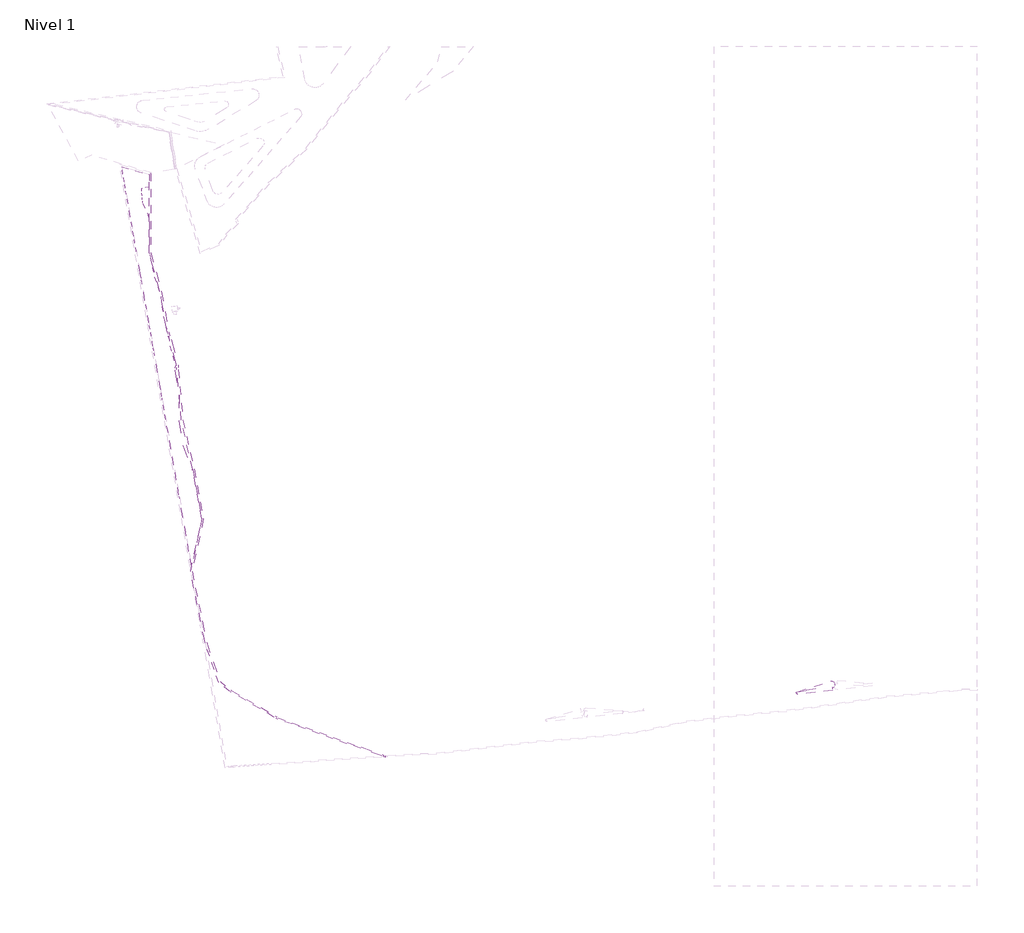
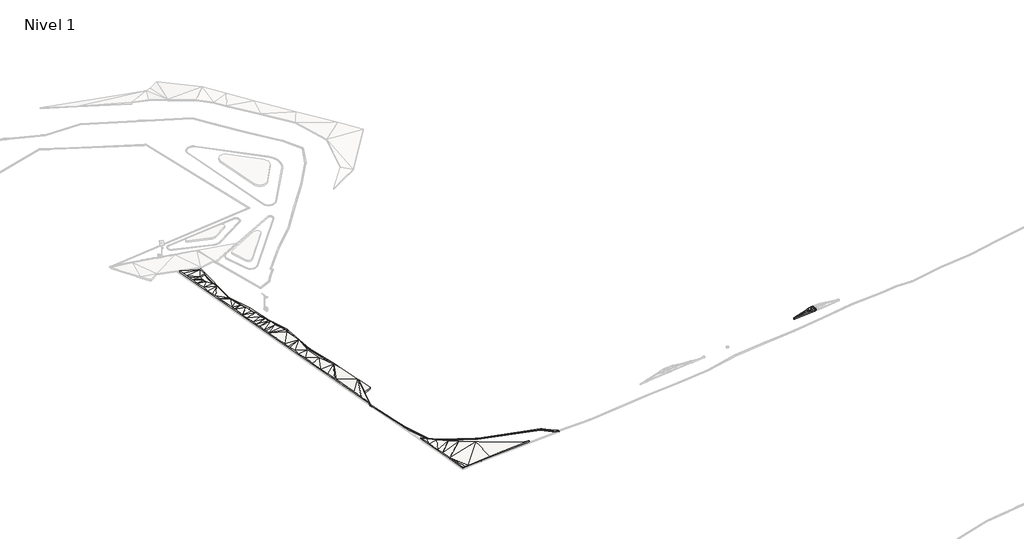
# One storey, part 8 of 45: 3 slabs.
"""IFC4 building model written with IfcOpenShell, lengths in millimetres."""

from ifc_helpers import new_model, si_unit, frame, origin, place, context, project, spatial, polyline, circle_curve, faceted_brep, element, save
from ifc_brep_helpers import plane_surface, cylinder_surface, revolved_surface, spline_surface, advanced_brep

model = new_model("IFC4")

# Units and contexts
model_context = context("Model", 3, world=origin())
ifc_project = project(units=[si_unit("LENGTHUNIT", "METRE", prefix="MILLI")], contexts=[model_context])

# Site, building, storey
site = spatial("IfcSite", under=ifc_project)
building = spatial("IfcBuilding", under=site)
storey = spatial("IfcBuildingStorey", under=building, Name="Nivel 1", Elevation=0.0)

# Slabs
placement = place(None, origin())
element("IfcSlab", 1, ObjectType="Tierra de Chacra (50cm)", at=placement, inside=storey, context=model_context, shape_type="Brep", body=[
    faceted_brep([(-226724.4384274, -477545.333316, 3100.0), (-226724.4384274, -477545.333316, 3600.0), (-239798.9297221, -478400.333791, 3600.0), (-246922.7544411, -478866.193103, 3408.7331529), (-247786.9217593, -478922.7049359, 3375.6789462), (-248651.0890774, -478979.2167688, 3312.6247395), (-248651.0890774, -478979.2167688, 2812.6247395), (-247786.9217593, -478922.7049359, 2875.6789462), (-246922.7544411, -478866.193103, 2908.7331529), (-239798.9297221, -478400.333791, 3100.0), (-249612.5591669, -473485.1887766, 3500.0), (-249762.7322816, -472627.0702505, 3500.0), (-250134.3990086, -470503.293937, 3500.0), (-250506.0657357, -468379.5176236, 3500.0), (-251111.8618112, -464917.8804566, 3500.0), (-251429.7626473, -463101.3329515, 3500.0), (-251724.9379023, -461414.6438582, 3500.0), (-251743.6396381, -461307.7784847, 3600.0), (-251743.6396381, -461307.7784847, 3100.0), (-251724.9379023, -461414.6438582, 3000.0), (-251429.7626473, -463101.3329515, 3000.0), (-251111.8618112, -464917.8804566, 3000.0), (-250506.0657357, -468379.5176236, 3000.0), (-250134.3990086, -470503.293937, 3000.0), (-249762.7322816, -472627.0702505, 3000.0), (-249612.5591669, -473485.1887766, 3000.0), (-250534.6627911, -462549.2612129, 3600.0), (-250534.6627911, -462549.2612129, 3100.0), (-248450.5701311, -464384.5169294, 3600.0), (-248450.5701311, -464384.5169294, 3100.0), (-245863.4507778, -466301.6015523, 3600.0), (-245863.4507778, -466301.6015523, 3100.0), (-243574.5002518, -468021.4676439, 3600.0), (-243574.5002518, -468021.4676439, 3100.0), (-239658.0102727, -470509.5806324, 3600.0), (-239658.0102727, -470509.5806324, 3100.0), (-239010.4086472, -470979.2742929, 3600.0), (-239010.4086472, -470979.2742929, 3100.0), (-230396.0544113, -476040.8991212, 3600.0), (-230396.0544113, -476040.8991212, 3100.0), (-228149.0692956, -477136.8269882, 3600.0), (-228149.0692956, -477136.8269882, 3100.0)], [[[0, 1, 2, 3, 4, 5, 6, 7, 8, 9]], [[6, 5, 10, 11, 12, 13, 14, 15, 16, 17, 18, 19, 20, 21, 22, 23, 24, 25]], [[5, 4, 10]], [[6, 25, 7]], [[3, 10, 4]], [[8, 7, 25]], [[18, 17, 26, 27]], [[27, 26, 28, 29]], [[29, 28, 30, 31]], [[31, 30, 32, 33]], [[33, 32, 34, 35]], [[35, 34, 36, 37]], [[37, 36, 38, 39]], [[39, 38, 40, 41]], [[41, 40, 1, 0]], [[14, 13, 28]], [[11, 10, 32, 12]], [[13, 12, 30]], [[16, 26, 17]], [[14, 26, 16, 15]], [[14, 28, 26]], [[3, 34, 10]], [[2, 1, 40, 38, 36, 34]], [[2, 34, 3]], [[13, 30, 28]], [[12, 32, 30]], [[10, 34, 32]], [[21, 29, 22]], [[24, 23, 33, 25]], [[22, 31, 23]], [[19, 18, 27]], [[21, 20, 19, 27]], [[21, 27, 29]], [[8, 25, 35]], [[9, 35, 37, 39, 41, 0]], [[9, 8, 35]], [[22, 29, 31]], [[23, 31, 33]], [[25, 33, 35]]]),
    faceted_brep([(-255582.7557537, -439370.318719, 3000.0), (-255582.7557537, -439370.318719, 3500.0), (-256113.6305631, -436336.7963089, 3712.7), (-256644.5053724, -433303.2738988, 3728.4), (-257947.6304307, -425856.9626452, 3763.9), (-258080.9904143, -425094.9176359, 3767.8), (-258594.6672773, -422159.6676525, 3584.4), (-259108.3441403, -419224.4176692, 3599.7), (-259675.755733, -415982.1169388, 3814.4), (-260243.1673256, -412739.8162084, 3831.0), (-260701.4324614, -410121.1996633, 3845.3), (-261030.8235861, -408238.9944037, 3854.9), (-261380.744944, -406239.4753792, 3865.2), (-261494.2335838, -405590.9791126, 3868.5), (-261730.6663019, -404239.9563548, 3875.4), (-262910.5571848, -397497.8292626, 3909.9), (-263100.5075425, -396412.415797, 3915.4), (-263246.6560408, -395577.2947153, 3919.7), (-263598.7584164, -393565.3129296, 3930.0), (-263834.1005131, -392220.522196, 3936.9), (-264069.4426098, -390875.7314625, 3943.7), (-264529.2774226, -388248.1454758, 3957.2), (-264836.8110347, -386490.8383148, 3967.5), (-265405.8061557, -383239.4889944, 3984.1), (-265478.8668368, -382822.0059844, 3986.2), (-265604.1794597, -382105.9451671, 3989.9), (-266525.1650893, -376843.2532903, 4016.8), (-266825.3057088, -375128.1911341, 4025.6), (-267074.3094814, -373705.3349144, 4032.9), (-267398.2072579, -371854.5197193, 4042.3), (-267725.1087329, -369986.540805, 4051.9), (-268197.2306509, -367288.7438984, 4065.7), (-268524.0949139, -365420.9776199, 4075.2), (-268743.849334, -364165.2579165, 4081.7), (-268963.6037542, -362909.5382131, 4088.1), (-269221.2048466, -361437.5552275, 4095.6), (-269490.4506136, -359899.0322961, 4103.5), (-269490.4506136, -359899.0322961, 3603.5), (-269221.2048466, -361437.5552275, 3595.6), (-268963.6037542, -362909.5382131, 3588.1), (-268743.849334, -364165.2579165, 3581.7), (-268524.0949139, -365420.9776199, 3575.2), (-268197.2306509, -367288.7438984, 3565.7), (-267725.1087329, -369986.540805, 3551.9), (-267398.2072579, -371854.5197193, 3542.3), (-267074.3094814, -373705.3349144, 3532.9), (-266825.3057088, -375128.1911341, 3525.6), (-266525.1650893, -376843.2532903, 3516.8), (-265604.1794597, -382105.9451671, 3489.9), (-265478.8668368, -382822.0059844, 3486.2), (-265405.8061557, -383239.4889944, 3484.1), (-264836.8110347, -386490.8383148, 3467.5), (-264529.2774226, -388248.1454758, 3457.2), (-264069.4426098, -390875.7314625, 3443.7), (-263834.1005131, -392220.522196, 3436.9), (-263598.7584164, -393565.3129296, 3430.0), (-263246.6560408, -395577.2947153, 3419.7), (-263100.5075425, -396412.415797, 3415.4), (-262910.5571848, -397497.8292626, 3409.9), (-261730.6663019, -404239.9563548, 3375.4), (-261494.2335838, -405590.9791126, 3368.5), (-261380.744944, -406239.4753792, 3365.2), (-261030.8235861, -408238.9944037, 3354.9), (-260701.4324614, -410121.1996633, 3345.3), (-260243.1673256, -412739.8162084, 3331.0), (-259675.755733, -415982.1169388, 3314.4), (-259108.3441403, -419224.4176692, 3099.7), (-258594.6672773, -422159.6676525, 3084.4), (-258080.9904143, -425094.9176359, 3267.8), (-257947.6304307, -425856.9626452, 3263.9), (-256644.5053724, -433303.2738988, 3228.4), (-256113.6305631, -436336.7963089, 3212.7), (-264002.3614127, -361497.5651032, 3600.0), (-264002.3614127, -361497.5651032, 3100.0), (-263983.5558499, -370874.2021756, 3227.776827), (-263983.5558499, -370874.2021756, 3727.776827), (-263971.0925563, -377088.5219867, 3600.0), (-263971.0925563, -377088.5219867, 3100.0), (-255361.7770306, -420059.4331896, 4008.6), (-255361.7770306, -420059.4331896, 4508.6), (-253526.6231339, -429823.6790834, 4670.9751266), (-253526.6231339, -429823.6790834, 4170.9751266), (-255596.8686491, -420098.7653822, 4510.0), (-255596.8686491, -420098.7653822, 4010.0), (-258056.7282629, -405289.2623115, 4635.1245907), (-258056.7282629, -405289.2623115, 4135.1245907), (-257313.1841437, -415303.8533107, 4328.7314602), (-257313.1841437, -415303.8533107, 3828.7314602), (-260687.1828404, -391664.2223396, 4260.0), (-260687.1828404, -391664.2223396, 3760.0), (-262943.5020776, -381889.2654282, 3600.0), (-262943.5020776, -381889.2654282, 3100.0), (-261471.6290224, -387728.1139559, 4100.0), (-261471.6290224, -387728.1139559, 3600.0), (-264002.3614127, -363980.3639016, 3900.0), (-264002.3614127, -363980.3639016, 3400.0), (-265511.078034, -364234.3871558, 3389.2703604), (-265511.078034, -364234.3871558, 2889.2703604), (-265529.3110927, -364337.7919699, 3380.3632497), (-265529.3110927, -364337.7919699, 2880.3632497), (-265529.3110927, -365217.7919699, 3350.0), (-265529.3110927, -365217.7919699, 2850.0), (-265483.2554512, -366096.5859605, 3290.965071), (-265483.2554512, -366096.5859605, 2790.965071), (-265407.9949576, -366812.6417251, 3324.4597723), (-265407.9949576, -366812.6417251, 2824.4597723), (-265312.3555799, -367262.5896215, 3389.0411189), (-265312.3555799, -367262.5896215, 2889.0411189), (-264387.2648916, -369125.5462014, 3547.6931793), (-264387.2648916, -369125.5462014, 3047.6931793), (-263849.3537608, -377525.5856144, 3600.0), (-263849.3537608, -377525.5856144, 3100.0), (-263809.2275679, -377984.2300971, 3600.0), (-263809.2275679, -377984.2300971, 3100.0), (-263393.4041863, -379940.5252986, 3600.0), (-263393.4041863, -379940.5252986, 3100.0), (-262305.9585527, -383811.2860456, 3920.0), (-262305.9585527, -383811.2860456, 3420.0), (-261715.3677092, -385743.0216527, 3600.0), (-261715.3677092, -385743.0216527, 3100.0), (-261193.2828205, -389708.6500934, 3983.4620754), (-261193.2828205, -389708.6500934, 3483.4620754), (-260421.7405962, -392813.9790161, 4192.8155098), (-260421.7405962, -392813.9790161, 3692.8155098), (-260150.3641758, -393592.9873846, 4400.0), (-260150.3641758, -393592.9873846, 3900.0), (-259906.625489, -395578.0796879, 4440.0), (-259906.625489, -395578.0796879, 3940.0), (-259344.801475, -397518.3770304, 4560.0), (-259344.801475, -397518.3770304, 4060.0), (-258860.9576838, -399458.9684829, 4651.6746287), (-258860.9576838, -399458.9684829, 4151.6746287), (-258912.3936428, -400362.9249744, 4624.7815008), (-258912.3936428, -400362.9249744, 4124.7815008), (-258171.4973556, -410377.9589701, 4317.4934922), (-258171.4973556, -410377.9589701, 3817.4934922)], [[[0, 1, 2, 3, 4, 5, 6, 7, 8, 9, 10, 11, 12, 13, 14, 15, 16, 17, 18, 19, 20, 21, 22, 23, 24, 25, 26, 27, 28, 29, 30, 31, 32, 33, 34, 35, 36, 37, 38, 39, 40, 41, 42, 43, 44, 45, 46, 47, 48, 49, 50, 51, 52, 53, 54, 55, 56, 57, 58, 59, 60, 61, 62, 63, 64, 65, 66, 67, 68, 69, 70, 71]], [[37, 36, 72, 73]], [[74, 75, 76, 77]], [[78, 79, 80, 81]], [[81, 80, 1, 0]], [[80, 3, 2]], [[81, 71, 70]], [[80, 2, 1]], [[81, 0, 71]], [[80, 4, 3]], [[81, 70, 69]], [[5, 4, 79]], [[68, 78, 69]], [[7, 6, 82]], [[66, 83, 67]], [[14, 13, 84]], [[59, 85, 60]], [[9, 8, 86]], [[64, 87, 65]], [[30, 29, 75]], [[29, 28, 75]], [[43, 74, 44]], [[44, 74, 45]], [[20, 19, 88]], [[53, 89, 54]], [[25, 24, 90]], [[48, 91, 49]], [[22, 21, 92]], [[51, 93, 52]], [[73, 72, 94, 95]], [[95, 94, 96, 97]], [[97, 96, 98, 99]], [[99, 98, 100, 101]], [[101, 100, 102, 103]], [[103, 102, 104, 105]], [[105, 104, 106, 107]], [[107, 106, 108, 109]], [[109, 108, 75, 74]], [[77, 76, 110, 111]], [[111, 110, 112, 113]], [[113, 112, 114, 115]], [[115, 114, 90, 91]], [[91, 90, 116, 117]], [[117, 116, 118, 119]], [[119, 118, 92, 93]], [[93, 92, 120, 121]], [[121, 120, 88, 89]], [[89, 88, 122, 123]], [[123, 122, 124, 125]], [[125, 124, 126, 127]], [[127, 126, 128, 129]], [[129, 128, 130, 131]], [[131, 130, 132, 133]], [[133, 132, 84, 85]], [[85, 84, 134, 135]], [[135, 134, 86, 87]], [[87, 86, 82, 83]], [[83, 82, 79, 78]], [[22, 116, 23]], [[20, 120, 21]], [[20, 88, 120]], [[25, 90, 114]], [[25, 112, 26]], [[25, 114, 112]], [[23, 90, 24]], [[26, 112, 110]], [[16, 126, 17]], [[14, 132, 15]], [[15, 126, 16]], [[23, 116, 90]], [[22, 92, 118]], [[18, 122, 19]], [[22, 118, 116]], [[21, 120, 92]], [[17, 124, 18]], [[12, 84, 13]], [[27, 75, 28]], [[30, 106, 31]], [[35, 34, 72]], [[34, 33, 96]], [[31, 102, 32]], [[32, 98, 33]], [[36, 35, 72]], [[26, 76, 27]], [[31, 106, 104]], [[30, 108, 106]], [[30, 75, 108]], [[27, 76, 75]], [[32, 100, 98]], [[33, 98, 96]], [[96, 94, 72]], [[32, 102, 100]], [[34, 96, 72]], [[31, 104, 102]], [[26, 110, 76]], [[14, 84, 132]], [[10, 134, 11]], [[9, 134, 10]], [[19, 122, 88]], [[18, 124, 122]], [[15, 128, 126]], [[15, 132, 130]], [[15, 130, 128]], [[17, 126, 124]], [[7, 86, 8]], [[11, 84, 12]], [[5, 82, 6]], [[80, 79, 4]], [[11, 134, 84]], [[7, 82, 86]], [[5, 79, 82]], [[9, 86, 134]], [[51, 50, 117]], [[53, 52, 121]], [[53, 121, 89]], [[48, 115, 91]], [[48, 47, 113]], [[48, 113, 115]], [[50, 49, 91]], [[47, 111, 113]], [[57, 56, 127]], [[59, 58, 133]], [[58, 57, 127]], [[50, 91, 117]], [[51, 119, 93]], [[55, 54, 123]], [[51, 117, 119]], [[52, 93, 121]], [[56, 55, 125]], [[61, 60, 85]], [[46, 45, 74]], [[43, 42, 107]], [[38, 73, 39]], [[39, 97, 40]], [[42, 41, 103]], [[41, 40, 99]], [[37, 73, 38]], [[47, 46, 77]], [[42, 105, 107]], [[43, 107, 109]], [[43, 109, 74]], [[46, 74, 77]], [[41, 99, 101]], [[40, 97, 99]], [[97, 73, 95]], [[41, 101, 103]], [[39, 73, 97]], [[42, 103, 105]], [[47, 77, 111]], [[59, 133, 85]], [[63, 62, 135]], [[64, 63, 135]], [[54, 89, 123]], [[55, 123, 125]], [[58, 127, 129]], [[58, 131, 133]], [[58, 129, 131]], [[56, 125, 127]], [[66, 65, 87]], [[62, 61, 85]], [[68, 67, 83]], [[81, 69, 78]], [[62, 85, 135]], [[66, 87, 83]], [[68, 83, 78]], [[64, 135, 87]]]),
    faceted_brep([(-254351.3769465, -435077.8601574, 3250.0), (-254351.3769465, -435077.8601574, 3750.0), (-253235.4643317, -429896.6692676, 4416.7), (-253235.4643317, -429896.6692676, 3916.7), (-252422.6095945, -434755.166183, 4592.9876671), (-252422.6095945, -434755.166183, 4092.9876671)], [[[0, 1, 2, 3]], [[3, 2, 4, 5]], [[5, 4, 1, 0]], [[4, 2, 1]], [[5, 0, 3]]]),
])
element("IfcSlab", 2, ObjectType="Lippia", at=placement, inside=storey, context=model_context, shape_type="AdvancedBrep", body=[
    advanced_brep(
    [(-128019.8091703, -462475.507486, 4450.0), (-128019.8091703, -462475.507486, 4750.0), (-127920.5357582, -463386.7098621, 4750.0), (-127920.5357582, -463386.7098621, 4450.0), (-128693.9636733, -462087.2510837, 4450.0), (-128693.9636733, -462087.2510837, 4750.0), (-135387.903288, -464200.4631856, 4450.0), (-135387.903288, -464200.4631856, 4750.0), (-128361.9040021, -463934.494312, 4450.0), (-128361.9040021, -463934.494312, 4750.0), (-135316.6657127, -464688.8220045, 4750.0), (-135316.6657127, -464688.8220045, 4450.0), (-129864.8175483, -462847.3543744, 5250.0), (-130324.764146, -463199.8421702, 5250.0), (-130374.2305822, -463529.1657993, 5250.0), (-130051.0645667, -463623.1384218, 5250.0), (-129806.6976847, -463497.9483641, 5250.0), (-129524.8173687, -463365.2402834, 5250.0), (-129493.8923214, -462924.949171, 5250.0), (-128644.0155602, -462772.096581, 5050.0), (-128422.349126, -463226.0960119, 5050.0), (-129864.8175483, -462847.3543744, 4950.0), (-129493.8923214, -462924.949171, 4950.0), (-129524.8173687, -463365.2402834, 4950.0), (-129806.6976847, -463497.9483641, 4950.0), (-130051.0645667, -463623.1384218, 4950.0), (-130374.2305822, -463529.1657993, 4950.0), (-130324.764146, -463199.8421702, 4950.0), (-128644.0155602, -462772.096581, 4750.0), (-128422.349126, -463226.0960119, 4750.0), (-131584.5885232, -463388.4266425, 5050.0), (-131472.0519609, -463871.3608717, 5050.0), (-131584.5885232, -463388.4266425, 4750.0), (-131472.0519609, -463871.3608717, 4750.0), (-128621.9811794, -463584.5332874, 5050.0), (-128417.9347399, -463437.6436739, 5050.0), (-128621.9811794, -463584.5332874, 4750.0), (-128417.9347399, -463437.6436739, 4750.0), (-128908.599789, -462526.8438826, 5050.0), (-128908.599789, -462526.8438826, 4750.0), (-129269.3523411, -462523.4828876, 5050.0), (-129269.3523411, -462523.4828876, 4750.0), (-131740.5757383, -463679.3482917, 5050.0), (-131740.5757383, -463679.3482917, 4750.0)],
    [
        (0, 1),
        (1, 2),
        (2, 3),
        (3, 0),
        (4, 5),
        (5, 1, circle_curve(frame((-128513.670843, -462553.6141352, 4750.0), z_axis=(0.0, 0.0, -1.0), x_axis=(-0.9018616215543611, 0.432025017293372, 0.0)), 500.0000005)),
        (0, 4, circle_curve(frame((-128513.670843, -462553.6141352, 4450.0), z_axis=(0.0, 0.0, 1.0), x_axis=(-0.9018616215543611, 0.432025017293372, 0.0)), 500.0000005)),
        (6, 7),
        (7, 5),
        (4, 6),
        (8, 9),
        (9, 10),
        (10, 11),
        (11, 8),
        (2, 9, circle_curve(frame((-128417.9347399, -463437.6436739, 4750.0), z_axis=(0.0, 0.0, -1.0), x_axis=(-0.9018616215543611, 0.432025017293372, 0.0)), 500.0000001)),
        (8, 3, circle_curve(frame((-128417.9347399, -463437.6436739, 4450.0), z_axis=(0.0, 0.0, 1.0), x_axis=(-0.9018616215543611, 0.432025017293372, 0.0)), 500.0000001)),
        (12, 13),
        (13, 14),
        (14, 15),
        (15, 16),
        (16, 17),
        (17, 18),
        (18, 12),
        (5, 19),
        (19, 1),
        (1, 20),
        (20, 2),
        (21, 22),
        (22, 23),
        (23, 24),
        (24, 25),
        (25, 26),
        (26, 27),
        (27, 21),
        (0, 28),
        (28, 4),
        (3, 29),
        (29, 0),
        (13, 30),
        (30, 14),
        (14, 31),
        (31, 15),
        (26, 32),
        (32, 27),
        (25, 33),
        (33, 26),
        (30, 31),
        (12, 30),
        (33, 32),
        (32, 21),
        (34, 9),
        (9, 35),
        (35, 34),
        (16, 34),
        (34, 17),
        (36, 37),
        (37, 8),
        (8, 36),
        (23, 36),
        (36, 24),
        (2, 35),
        (35, 20),
        (20, 19),
        (19, 34),
        (37, 3),
        (36, 28),
        (28, 29),
        (29, 37),
        (19, 17),
        (19, 18),
        (5, 38),
        (38, 19),
        (23, 28),
        (22, 28),
        (28, 39),
        (39, 4),
        (40, 18),
        (18, 38),
        (38, 40),
        (40, 5),
        (5, 30),
        (30, 40),
        (41, 39),
        (39, 22),
        (22, 41),
        (41, 32),
        (32, 4),
        (4, 41),
        (34, 15),
        (31, 34),
        (31, 9),
        (36, 33),
        (25, 36),
        (8, 33),
        (40, 12),
        (21, 41),
        (42, 31),
        (30, 42),
        (43, 32),
        (33, 43),
        (10, 7, circle_curve(frame((-135312.608053, -464438.8549369, 4750.0), z_axis=(0.0, 0.0, -1.0), x_axis=(-0.9018616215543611, 0.432025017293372, 0.0)), 249.999999)),
        (6, 11, circle_curve(frame((-135312.608053, -464438.8549369, 4450.0), z_axis=(0.0, 0.0, 1.0), x_axis=(-0.9018616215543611, 0.432025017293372, 0.0)), 249.999999)),
        (31, 10),
        (42, 10),
        (42, 7),
        (30, 7),
        (11, 33),
        (11, 43),
        (6, 43),
        (6, 32),
    ],
    [
        plane_surface(frame((-128019.8091703, -462475.507486, 4450.0), z_axis=(0.9941175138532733, 0.10830682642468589, 0.0), x_axis=(0.0, 0.0, 1.0))),
        cylinder_surface(frame((-128513.670843, -462553.6141352, 4750.0), z_axis=(0.0, 0.0, -1.0), x_axis=(-0.9018616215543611, 0.432025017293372, 0.0)), 500.0000005),
        plane_surface(frame((-135387.903288, -464200.4631856, 4450.0), z_axis=(-0.3010454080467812, 0.9536098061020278, 0.0), x_axis=(0.0, 0.0, 1.0))),
        plane_surface(frame((-128361.9040021, -463934.494312, 4450.0), z_axis=(0.10782964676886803, -0.9941693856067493, 0.0), x_axis=(0.0, 0.0, 1.0))),
        cylinder_surface(frame((-128417.9347399, -463437.6436739, 4750.0), z_axis=(0.0, 0.0, -1.0), x_axis=(-0.9018616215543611, 0.432025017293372, 0.0)), 500.0000001),
        plane_surface(frame((-129920.0406026, -463283.9483692, 5250.0), z_axis=(0.0, 0.0, 1.0), x_axis=(-0.7937212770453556, -0.6082816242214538, 0.0))),
        spline_surface(2, 1, [[(-128019.8091703, -462475.507486, 4750.0), (-128644.0155602, -462772.096581, 5050.0)], [(-128057.12648176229, -462239.5533124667, 4750.0), (-128644.0155602, -462772.096581, 5050.0)], [(-128264.1370512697, -462120.3326017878, 4750.0), (-128644.0155602, -462772.096581, 5050.0)], [(-128471.14762081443, -462001.11189112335, 4750.0), (-128644.0155602, -462772.096581, 5050.0)], [(-128693.9636733, -462087.2510837, 4750.0), (-128644.0155602, -462772.096581, 5050.0)]], [3, 2, 3], [2, 2], [0.0, 1.0, 2.0], [0.0, 1.0], weights=[[1.0, 1.0], [0.9023052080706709, 0.9023052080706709], [1.0, 1.0], [0.9023052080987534, 0.9023052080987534], [1.0, 1.0]]),
        plane_surface(frame((-128120.8980182, -463029.4377867, 4850.0), z_axis=(0.5257261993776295, 0.057276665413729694, 0.8487233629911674), x_axis=(-0.10830682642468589, 0.9941175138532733, 0.0))),
        plane_surface(frame((-129920.0406026, -463283.9483692, 4950.0), z_axis=(0.0, 0.0, -1.0), x_axis=(-0.7937212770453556, -0.6082816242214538, 0.0))),
        spline_surface(1, 2, [[(-128019.8091703, -462475.507486, 4450.0), (-128057.12648176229, -462239.5533124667, 4450.0), (-128264.1370512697, -462120.3326017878, 4450.0), (-128471.14762081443, -462001.11189112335, 4450.0), (-128693.9636733, -462087.2510837, 4450.0)], [(-128644.0155602, -462772.096581, 4750.0), (-128644.0155602, -462772.096581, 4750.0), (-128644.0155602, -462772.096581, 4750.0), (-128644.0155602, -462772.096581, 4750.0), (-128644.0155602, -462772.096581, 4750.0)]], [2, 2], [3, 2, 3], [0.0, 1.0], [0.0, 1.0, 2.0], weights=[[1.0, 0.9023052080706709, 1.0, 0.9023052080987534, 1.0], [1.0, 0.9023052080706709, 1.0, 0.9023052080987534, 1.0]]),
        plane_surface(frame((-128120.8980182, -463029.4377867, 4550.0), z_axis=(-0.5257261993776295, -0.057276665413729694, -0.8487233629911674), x_axis=(-0.10830682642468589, 0.9941175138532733, 0.0))),
        plane_surface(frame((-130761.1944171, -463372.478204, 5183.3333333), z_axis=(-0.1602571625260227, 0.024071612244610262, 0.9867817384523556), x_axis=(0.14853983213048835, 0.9889064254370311, 0.0))),
        plane_surface(frame((-130632.4490366, -463674.555031, 5183.3333333), z_axis=(-0.08386722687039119, -0.28841418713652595, 0.9538257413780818), x_axis=(-0.9602266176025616, 0.27922185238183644, 0.0))),
        plane_surface(frame((-130761.1944171, -463372.478204, 4883.3333333), z_axis=(0.1602571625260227, -0.024071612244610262, -0.9867817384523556), x_axis=(0.14853983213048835, 0.9889064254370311, 0.0))),
        plane_surface(frame((-130632.4490366, -463674.555031, 4883.3333333), z_axis=(0.08386722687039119, 0.28841418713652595, -0.9538257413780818), x_axis=(-0.9602266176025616, 0.27922185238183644, 0.0))),
        plane_surface(frame((-131143.6236888, -463596.3177712, 5116.6666667), z_axis=(-0.16731720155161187, -0.03898937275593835, 0.9851318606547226), x_axis=(0.9405758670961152, 0.29318105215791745, 0.17135317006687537))),
        plane_surface(frame((-130591.3900725, -463145.207729, 5183.3333333), z_axis=(-0.18766383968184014, 0.24487470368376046, 0.9512195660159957), x_axis=(0.9770127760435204, 0.14625009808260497, 0.15510301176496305))),
        plane_surface(frame((-131143.6236888, -463596.3177712, 4816.6666667), z_axis=(0.16731720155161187, 0.03898937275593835, -0.9851318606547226), x_axis=(0.9405758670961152, 0.29318105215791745, 0.17135317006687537))),
        plane_surface(frame((-130591.3900725, -463145.207729, 4883.3333333), z_axis=(0.18766383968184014, -0.24487470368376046, -0.9512195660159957), x_axis=(0.9770127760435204, 0.14625009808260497, 0.15510301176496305))),
        plane_surface(frame((-128467.2733071, -463652.2237578, 4950.0), z_axis=(0.3311933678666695, -0.460065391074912, 0.8238026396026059), x_axis=(0.4914006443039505, -0.6612309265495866, -0.5668324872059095))),
        plane_surface(frame((-129317.8320776, -463482.5739783, 5183.3333333), z_axis=(0.1382235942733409, -0.29359561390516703, 0.9458836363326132), x_axis=(-0.9047463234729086, -0.425950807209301, 0.0))),
        plane_surface(frame((-128467.2733071, -463652.2237578, 4650.0), z_axis=(-0.3311933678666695, 0.460065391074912, -0.8238026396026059), x_axis=(0.4914006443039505, -0.6612309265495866, -0.5668324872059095))),
        plane_surface(frame((-129317.8320776, -463482.5739783, 4883.3333333), z_axis=(-0.1382235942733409, 0.29359561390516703, -0.9458836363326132), x_axis=(-0.9047463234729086, -0.425950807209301, 0.0))),
        revolved_surface(polyline([(-128417.9347399, -463437.6436739, 5050.0), (-128361.9040021, -463934.494312, 4750.0)]), (-128417.9347399, -463437.6436739, 5050.0), (0.0, 0.0, -1.0)),
        plane_surface(frame((-128526.5701514, -463255.0923885, 5050.0), z_axis=(0.0, 0.0, 1.0000000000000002), x_axis=(-0.020862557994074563, 0.9997823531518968, 0.0))),
        plane_surface(frame((-128253.6065414, -463350.1498493, 4950.0), z_axis=(0.5156318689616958, 0.01075974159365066, 0.8567426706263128), x_axis=(0.8530322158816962, 0.08735076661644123, -0.5144957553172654))),
        revolved_surface(polyline([(-127920.5357582, -463386.7098621, 4450.0), (-128417.9347399, -463437.6436739, 4750.0)]), (-128417.9347399, -463437.6436739, 4750.0), (0.0, 0.0, -1.0)),
        plane_surface(frame((-128526.5701514, -463255.0923885, 4750.0), z_axis=(0.0, 0.0, -1.0000000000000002), x_axis=(-0.020862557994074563, 0.9997823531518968, 0.0))),
        plane_surface(frame((-128253.6065414, -463350.1498493, 4650.0), z_axis=(-0.5156318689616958, -0.01075974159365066, -0.8567426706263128), x_axis=(0.8530322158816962, 0.08735076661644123, -0.5144957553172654))),
        plane_surface(frame((-128930.2713695, -463240.6233839, 5116.6666667), z_axis=(0.21764361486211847, 0.005902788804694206, 0.9760104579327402), x_axis=(-0.8151271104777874, -0.5489174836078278, 0.18508751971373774))),
        plane_surface(frame((-129220.9084168, -463020.7620118, 5183.3333333), z_axis=(0.231814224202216, -0.01628210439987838, 0.9726238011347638), x_axis=(-0.9588268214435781, -0.17244754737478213, 0.22563902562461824))),
        plane_surface(frame((-128748.8596742, -462462.0638491, 4950.0), z_axis=(0.36669955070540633, 0.39560387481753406, 0.8420386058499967), x_axis=(-0.06665627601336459, 0.9139334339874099, -0.40035311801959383))),
        plane_surface(frame((-128362.0579522, -462824.566693, 4950.0), z_axis=(0.3578428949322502, 0.1747177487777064, 0.9172906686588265), x_axis=(0.4457772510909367, 0.831210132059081, -0.33222335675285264))),
        plane_surface(frame((-128930.2713695, -463240.6233839, 4816.6666667), z_axis=(-0.21764361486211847, -0.005902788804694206, -0.9760104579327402), x_axis=(-0.8151271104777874, -0.5489174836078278, 0.18508751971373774))),
        plane_surface(frame((-129220.9084168, -463020.7620118, 4883.3333333), z_axis=(-0.231814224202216, 0.01628210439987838, -0.9726238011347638), x_axis=(-0.9588268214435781, -0.17244754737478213, 0.22563902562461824))),
        plane_surface(frame((-128748.8596742, -462462.0638491, 4650.0), z_axis=(-0.36669955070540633, -0.39560387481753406, -0.8420386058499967), x_axis=(-0.06665627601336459, 0.9139334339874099, -0.40035311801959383))),
        plane_surface(frame((-128362.0579522, -462824.566693, 4650.0), z_axis=(-0.3578428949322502, -0.1747177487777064, -0.9172906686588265), x_axis=(0.4457772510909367, 0.831210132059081, -0.33222335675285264))),
        plane_surface(frame((-129223.9481505, -462658.4253137, 5116.6666667), z_axis=(0.004137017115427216, 0.44404692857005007, 0.8959939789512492), x_axis=(-0.4476556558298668, -0.800385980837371, 0.39873135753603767))),
        plane_surface(frame((-129849.3015125, -462666.3868713, 4950.0), z_axis=(-0.2879216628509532, 0.770693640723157, 0.5684473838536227), x_axis=(0.7358836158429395, 0.5579112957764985, -0.38367993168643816))),
        plane_surface(frame((-129223.9481505, -462658.4253137, 4816.6666667), z_axis=(-0.004137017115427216, -0.44404692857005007, -0.8959939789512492), x_axis=(-0.4476556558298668, -0.800385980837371, 0.39873135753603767))),
        plane_surface(frame((-129849.3015125, -462666.3868713, 4650.0), z_axis=(0.2879216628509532, -0.770693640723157, -0.5684473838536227), x_axis=(0.7358836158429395, 0.5579112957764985, -0.38367993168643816))),
        plane_surface(frame((-129015.5025569, -462741.2965448, 5116.6666667), z_axis=(0.18929279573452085, 0.20421340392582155, 0.9604504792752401), x_axis=(-0.7957052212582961, -0.5412241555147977, 0.2719000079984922))),
        plane_surface(frame((-129015.5025569, -462741.2965448, 4816.6666667), z_axis=(-0.18929279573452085, -0.20421340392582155, -0.9604504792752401), x_axis=(-0.7957052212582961, -0.5412241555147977, 0.2719000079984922))),
        plane_surface(frame((-130048.3659023, -463693.0108603, 5116.6666667), z_axis=(0.08871453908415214, -0.8815146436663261, 0.46374741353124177), x_axis=(-0.9899943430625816, -0.02674362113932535, 0.13854955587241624))),
        plane_surface(frame((-129493.2478103, -463568.5400245, 5183.3333333), z_axis=(0.14054619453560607, -0.27434155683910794, 0.9513061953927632), x_axis=(-0.9834974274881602, 0.07187884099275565, 0.1660308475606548))),
        plane_surface(frame((-129485.3123808, -463796.796157, 4950.0), z_axis=(0.06262947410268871, -0.6223196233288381, 0.7802536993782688), x_axis=(0.9951769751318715, -0.02020127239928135, -0.09599321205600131))),
        plane_surface(frame((-130048.3659023, -463693.0108603, 4816.6666667), z_axis=(-0.08871453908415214, 0.8815146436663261, -0.46374741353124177), x_axis=(-0.9899943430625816, -0.02674362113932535, 0.13854955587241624))),
        plane_surface(frame((-129493.2478103, -463568.5400245, 4883.3333333), z_axis=(-0.14054619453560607, 0.27434155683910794, -0.9513061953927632), x_axis=(-0.9834974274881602, 0.07187884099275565, 0.1660308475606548))),
        plane_surface(frame((-129485.3123808, -463796.796157, 4650.0), z_axis=(-0.06262947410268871, 0.6223196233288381, -0.7802536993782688), x_axis=(0.9951769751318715, -0.02020127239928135, -0.09599321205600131))),
        plane_surface(frame((-129542.6874036, -462765.2621443, 5183.3333333), z_axis=(0.08490034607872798, 0.4058478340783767, 0.9099887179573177), x_axis=(0.9788121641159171, -0.2047602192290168, 0.0))),
        plane_surface(frame((-130239.5861375, -462919.7546348, 5116.6666667), z_axis=(-0.31611396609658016, 0.8461573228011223, 0.4290568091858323), x_axis=(0.9480869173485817, 0.29828596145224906, 0.11025734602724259))),
        plane_surface(frame((-129542.6874036, -462765.2621443, 4883.3333333), z_axis=(-0.08490034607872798, -0.4058478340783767, -0.9099887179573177), x_axis=(0.9788121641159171, -0.2047602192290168, 0.0))),
        plane_surface(frame((-130239.5861375, -462919.7546348, 4816.6666667), z_axis=(0.31611396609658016, -0.8461573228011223, -0.4290568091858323), x_axis=(0.9480869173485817, 0.29828596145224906, 0.11025734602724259))),
        plane_surface(frame((-131599.0720742, -463646.3786019, 5050.0), z_axis=(0.0, 0.0, 1.0000000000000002), x_axis=(0.813432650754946, -0.5816591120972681, 0.0))),
        plane_surface(frame((-128957.3052678, -462379.192618, 4950.0), z_axis=(0.0052353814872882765, 0.5619399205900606, 0.8271614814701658), x_axis=(0.37402447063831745, 0.7660335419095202, -0.5227794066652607))),
        plane_surface(frame((-131599.0720742, -463646.3786019, 4750.0), z_axis=(0.0, 0.0, -1.0000000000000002), x_axis=(0.813432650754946, -0.5816591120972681, 0.0))),
        plane_surface(frame((-128957.3052678, -462379.192618, 4650.0), z_axis=(-0.0052353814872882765, -0.5619399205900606, -0.8271614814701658), x_axis=(0.37402447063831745, 0.7660335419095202, -0.5227794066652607))),
        cylinder_surface(frame((-135312.608053, -464438.8549369, 4750.0), z_axis=(0.0, 0.0, -1.0), x_axis=(-0.9018616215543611, 0.432025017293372, 0.0)), 249.999999),
        plane_surface(frame((-131716.8738919, -464164.892396, 4850.0), z_axis=(0.06489162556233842, -0.5982887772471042, 0.7986486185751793), x_axis=(0.9941693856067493, 0.10782964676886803, 0.0))),
        plane_surface(frame((-132843.097804, -464079.8437226, 4950.0), z_axis=(-0.05982764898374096, -0.08366715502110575, 0.9946961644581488), x_axis=(0.9752973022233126, 0.2073726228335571, 0.07610366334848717))),
        spline_surface(2, 1, [[(-135387.903288, -464200.4631856, 4750.0), (-131740.5757383, -463679.3482917, 5050.0)], [(-135590.68560587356, -464264.51130049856, 4750.0), (-131740.5757383, -463679.3482917, 5050.0)], [(-135559.98995306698, -464474.94087627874, 4750.0), (-131740.5757383, -463679.3482917, 5050.0)], [(-135529.29430028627, -464685.37045205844, 4750.0), (-131740.5757383, -463679.3482917, 5050.0)], [(-135316.6657127, -464688.8220045, 4750.0), (-131740.5757383, -463679.3482917, 5050.0)]], [3, 2, 3], [2, 2], [0.0, 1.0, 2.0], [0.0, 1.0], weights=[[1.0, 1.0], [0.7617038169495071, 0.7617038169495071], [1.0, 1.0], [0.7617038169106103, 0.7617038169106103], [1.0, 1.0]]),
        plane_surface(frame((-132904.3558499, -463756.0793733, 4950.0), z_axis=(-0.08862436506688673, 0.04751886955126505, 0.9949309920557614), x_axis=(0.47254228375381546, 0.8813079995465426, 0.0))),
        plane_surface(frame((-131888.8184949, -463225.3803039, 4850.0), z_axis=(-0.18941223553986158, 0.5999937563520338, 0.7772583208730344), x_axis=(0.9078186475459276, 0.408642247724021, -0.09421685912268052))),
        plane_surface(frame((-131716.8738919, -464164.892396, 4550.0), z_axis=(-0.06489162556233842, 0.5982887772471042, -0.7986486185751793), x_axis=(0.9941693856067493, 0.10782964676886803, 0.0))),
        plane_surface(frame((-132843.097804, -464079.8437226, 4650.0), z_axis=(0.05982764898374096, 0.08366715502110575, -0.9946961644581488), x_axis=(0.9752973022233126, 0.2073726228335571, 0.07610366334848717))),
        spline_surface(1, 2, [[(-135387.903288, -464200.4631856, 4450.0), (-135590.68560587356, -464264.51130049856, 4450.0), (-135559.98995306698, -464474.94087627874, 4450.0), (-135529.29430028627, -464685.37045205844, 4450.0), (-135316.6657127, -464688.8220045, 4450.0)], [(-131740.5757383, -463679.3482917, 4750.0), (-131740.5757383, -463679.3482917, 4750.0), (-131740.5757383, -463679.3482917, 4750.0), (-131740.5757383, -463679.3482917, 4750.0), (-131740.5757383, -463679.3482917, 4750.0)]], [2, 2], [3, 2, 3], [0.0, 1.0], [0.0, 1.0, 2.0], weights=[[1.0, 0.7617038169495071, 1.0, 0.7617038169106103, 1.0], [1.0, 0.7617038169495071, 1.0, 0.7617038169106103, 1.0]]),
        plane_surface(frame((-132904.3558499, -463756.0793733, 4650.0), z_axis=(0.08862436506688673, -0.04751886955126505, -0.9949309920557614), x_axis=(0.47254228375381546, 0.8813079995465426, 0.0))),
        plane_surface(frame((-131888.8184949, -463225.3803039, 4550.0), z_axis=(0.18941223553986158, -0.5999937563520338, -0.7772583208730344), x_axis=(0.9078186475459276, 0.408642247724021, -0.09421685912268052))),
    ],
    [
        (0, [[1, 2, 3, 4]]),
        (1, [[5, 6, -1, 7]]),
        (2, [[8, 9, -5, 10]]),
        (3, [[11, 12, 13, 14]]),
        (4, [[-3, 15, -11, 16]]),
        (5, [[17, 18, 19, 20, 21, 22, 23]]),
        (6, [[-6, 24, 25]]),
        (7, [[-2, 26, 27]]),
        (8, [[28, 29, 30, 31, 32, 33, 34]]),
        (9, [[35, 36, -7]]),
        (10, [[37, 38, -4]]),
        (11, [[-18, 39, 40]]),
        (12, [[-19, 41, 42]]),
        (13, [[43, 44, -33]]),
        (14, [[45, 46, -32]]),
        (15, [[-41, -40, 47]]),
        (16, [[-39, -17, 48]]),
        (17, [[49, -43, -46]]),
        (18, [[50, -34, -44]]),
        (19, [[51, 52, 53]]),
        (20, [[-21, 54, 55]]),
        (21, [[56, 57, 58]]),
        (22, [[59, 60, -30]]),
        (23, [[-52, -15, 61]]),
        (24, [[62, 63, 64, -53]]),
        (25, [[-61, -27, -62]]),
        (26, [[65, -16, -57]]),
        (27, [[-56, 66, 67, 68]]),
        (28, [[-68, -37, -65]]),
        (29, [[69, -55, -64]]),
        (30, [[70, -22, -69]]),
        (31, [[-24, 71, 72]]),
        (32, [[-26, -25, -63]]),
        (33, [[-66, -59, 73]]),
        (34, [[-73, -29, 74]]),
        (35, [[75, 76, -36]]),
        (36, [[-67, -35, -38]]),
        (37, [[77, 78, 79]]),
        (38, [[80, 81, 82]]),
        (39, [[83, 84, 85]]),
        (40, [[86, 87, 88]]),
        (41, [[-78, -70, -72]]),
        (42, [[-75, -74, -84]]),
        (43, [[89, -42, 90]]),
        (44, [[-54, -20, -89]]),
        (45, [[91, -51, -90]]),
        (46, [[92, -45, 93]]),
        (47, [[-93, -31, -60]]),
        (48, [[-92, -58, 94]]),
        (49, [[-23, -77, 95]]),
        (50, [[-48, -95, -82]]),
        (51, [[96, -85, -28]]),
        (52, [[-86, -96, -50]]),
        (53, [[97, -47, 98]]),
        (54, [[-71, -80, -79]]),
        (55, [[99, -49, 100]]),
        (56, [[-83, -88, -76]]),
        (57, [[-13, 101, -8, 102]]),
        (58, [[-12, -91, 103]]),
        (59, [[-103, -97, 104]]),
        (60, [[-104, 105, -101]]),
        (61, [[-98, 106, -105]]),
        (62, [[-81, -9, -106]]),
        (63, [[107, -94, -14]]),
        (64, [[108, -100, -107]]),
        (65, [[-102, 109, -108]]),
        (66, [[-109, 110, -99]]),
        (67, [[-110, -10, -87]]),
    ],
),
])
element("IfcSlab", 3, ObjectType="Tierra de Chacra (20cm)", at=placement, inside=storey, context=model_context, shape_type="Brep", body=[
    faceted_brep([(-217120.8323867, -476910.8067645, 3172.1566546), (-217120.8323867, -476910.8067645, 3372.1566546), (-217070.2944768, -477206.5193271, 3372.2), (-217070.2944768, -477206.5193271, 3172.2), (-217184.4884977, -477206.5193271, 3300.0), (-217184.4884977, -477206.5193271, 3100.0), (-217863.9693678, -476965.9069289, 3297.8776148), (-222052.9785964, -475482.5280718, 4500.0), (-222052.9785964, -475482.5280718, 4300.0), (-217863.9693678, -476965.9069289, 3097.8776148), (-238476.9303992, -469666.6079987, 3641.6), (-238476.9303992, -469666.6079987, 3441.6), (-239131.5282091, -469274.2899851, 3670.8), (-239131.5282091, -469274.2899851, 3470.8), (-247672.0508711, -464310.0935207, 3198.8), (-247672.0508711, -464310.0935207, 2998.8), (-247970.7031928, -464136.5012409, 3300.0), (-247970.7031928, -464136.5012409, 3100.0), (-250191.5047486, -462373.4554771, 3300.0), (-250191.5047486, -462373.4554771, 3100.0), (-252907.0466494, -454484.5270185, 3300.0), (-252907.0466494, -454484.5270185, 3100.0), (-253739.7364396, -450202.5565579, 3200.0), (-253739.7364396, -450202.5565579, 3000.0), (-255792.6072159, -440344.66068, 3200.0), (-255792.6072159, -440344.66068, 3000.0), (-253526.6231338, -429823.6790837, 4114.2), (-253526.6231338, -429823.6790837, 3914.2), (-255361.7770306, -420059.4331896, 4508.6), (-255361.7770306, -420059.4331896, 4308.6), (-257628.2467163, -410284.4843393, 4307.5), (-257628.2467163, -410284.4843393, 4107.5), (-258494.4244567, -400259.5704267, 4567.3), (-258494.4244567, -400259.5704267, 4367.3), (-258515.7184206, -399396.5558907, 4569.4), (-258515.7184206, -399396.5558907, 4369.4), (-259960.0720416, -394408.382686, 4198.0), (-260421.7405962, -392813.9790161, 4069.8), (-260421.7405962, -392813.9790161, 3869.8), (-259960.0720416, -394408.382686, 3998.0), (-261856.1466798, -384681.5486228, 3573.1), (-261856.1466798, -384681.5486228, 3373.1), (-263971.0925563, -377088.5219867, 3157.9), (-263971.0925563, -377088.5219867, 2957.9), (-264002.3614127, -361497.5651032, 3576.7), (-264002.3614127, -361497.5651032, 3376.7), (-263702.812498, -361272.3486865, 3778.4), (-263702.812498, -361272.3486865, 3578.4), (-263671.1747742, -377047.226503, 3530.8), (-263671.1747742, -377047.226503, 3330.8), (-261563.2381504, -384615.0886933, 3981.8), (-261563.2381504, -384615.0886933, 3781.8), (-260129.5480882, -392743.4595688, 4190.9), (-260129.5480882, -392743.4595688, 3990.9), (-259644.4376073, -394316.9889594, 4300.7), (-259644.4376073, -394316.9889594, 4100.7), (-258216.7458236, -399351.2161592, 4569.3886225), (-258216.7458236, -399351.2161592, 4369.3886225), (-258194.7434274, -400242.9424668, 4567.314587), (-258194.7434274, -400242.9424668, 4367.314587), (-257331.1923895, -410237.4556115, 4307.462731), (-257331.1923895, -410237.4556115, 4107.462731), (-255068.1047583, -419997.8181603, 4508.6411867), (-255068.1047583, -419997.8181603, 4308.6411867), (-253220.6125291, -429827.7122336, 4116.7), (-253220.6125291, -429827.7122336, 3916.7), (-253235.4643317, -429896.6692676, 4114.1973871), (-253235.4643317, -429896.6692676, 3914.1973871), (-255485.9533471, -440345.7071496, 3200.0), (-255485.9533471, -440345.7071496, 3000.0), (-253445.6321635, -450143.3398197, 3200.0), (-253445.6321635, -450143.3398197, 3000.0), (-252616.5625393, -454406.6941714, 3300.0), (-252616.5625393, -454406.6941714, 3100.0), (-249936.3560625, -462192.9695899, 3300.0), (-249936.3560625, -462192.9695899, 3100.0), (-247801.1758273, -463888.0424606, 3300.0), (-247801.1758273, -463888.0424606, 3100.0), (-247521.2925089, -464050.7252184, 3198.7654432), (-247521.2925089, -464050.7252184, 2998.7654432), (-238979.0315117, -469015.9320938, 3670.7751246), (-238979.0315117, -469015.9320938, 3470.7751246), (-238348.4744485, -469393.8418435, 3641.5644227), (-238348.4744485, -469393.8418435, 3441.5644227), (-221952.838165, -475199.7350486, 4500.0), (-221952.838165, -475199.7350486, 4300.0), (-217744.7380512, -476689.8742191, 3517.7831055), (-217744.7380512, -476689.8742191, 3317.7831055)], [[[0, 1, 2, 3]], [[3, 2, 4, 5]], [[5, 4, 6, 7, 8, 9]], [[8, 7, 10, 11]], [[11, 10, 12, 13]], [[13, 12, 14, 15]], [[15, 14, 16, 17]], [[17, 16, 18, 19]], [[19, 18, 20, 21]], [[21, 20, 22, 23]], [[23, 22, 24, 25]], [[25, 24, 26, 27]], [[27, 26, 28, 29]], [[29, 28, 30, 31]], [[31, 30, 32, 33]], [[33, 32, 34, 35]], [[35, 34, 36, 37, 38, 39]], [[38, 37, 40, 41]], [[41, 40, 42, 43]], [[43, 42, 44, 45]], [[45, 44, 46, 47]], [[47, 46, 48, 49]], [[49, 48, 50, 51]], [[51, 50, 52, 53]], [[53, 52, 54, 55]], [[55, 54, 56, 57]], [[57, 56, 58, 59]], [[59, 58, 60, 61]], [[61, 60, 62, 63]], [[63, 62, 64, 65]], [[65, 64, 66, 67]], [[67, 66, 68, 69]], [[69, 68, 70, 71]], [[71, 70, 72, 73]], [[73, 72, 74, 75]], [[75, 74, 76, 77]], [[77, 76, 78, 79]], [[79, 78, 80, 81]], [[81, 80, 82, 83]], [[83, 82, 84, 85]], [[85, 84, 86, 1, 0, 87]], [[84, 82, 7]], [[85, 8, 83]], [[4, 2, 1]], [[84, 7, 6]], [[5, 0, 3]], [[85, 9, 8]], [[82, 80, 12]], [[83, 13, 81]], [[82, 10, 7]], [[83, 8, 11]], [[82, 12, 10]], [[83, 11, 13]], [[80, 78, 12]], [[81, 13, 79]], [[78, 14, 12]], [[78, 76, 14]], [[79, 13, 15]], [[79, 15, 77]], [[76, 74, 72, 20, 18, 16]], [[77, 17, 19, 21, 73, 75]], [[76, 16, 14]], [[77, 15, 17]], [[72, 70, 22]], [[73, 23, 71]], [[72, 22, 20]], [[73, 21, 23]], [[70, 68, 24, 22]], [[71, 23, 25, 69]], [[68, 66, 26]], [[69, 27, 67]], [[68, 26, 24]], [[66, 64, 26]], [[69, 25, 27]], [[67, 27, 65]], [[62, 60, 28]], [[64, 62, 26]], [[63, 29, 61]], [[65, 27, 63]], [[62, 28, 26]], [[63, 27, 29]], [[60, 58, 32]], [[61, 33, 59]], [[60, 30, 28]], [[61, 29, 31]], [[60, 32, 30]], [[58, 56, 34]], [[61, 31, 33]], [[59, 35, 57]], [[58, 34, 32]], [[56, 54, 34]], [[59, 33, 35]], [[57, 35, 55]], [[54, 52, 36]], [[55, 39, 53]], [[52, 50, 40]], [[53, 41, 51]], [[50, 48, 40]], [[52, 40, 37]], [[51, 41, 49]], [[53, 38, 41]], [[48, 42, 40]], [[48, 46, 44]], [[49, 41, 43]], [[49, 45, 47]], [[48, 44, 42]], [[49, 43, 45]], [[84, 6, 86]], [[4, 1, 6]], [[85, 87, 9]], [[5, 9, 0]], [[1, 86, 6]], [[0, 9, 87]], [[54, 36, 34]], [[52, 37, 36]], [[55, 35, 39]], [[53, 39, 38]]]),
])

save(model, "model.ifc")
